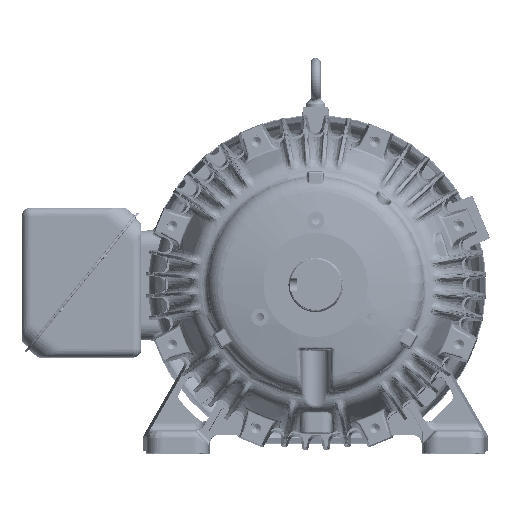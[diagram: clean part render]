
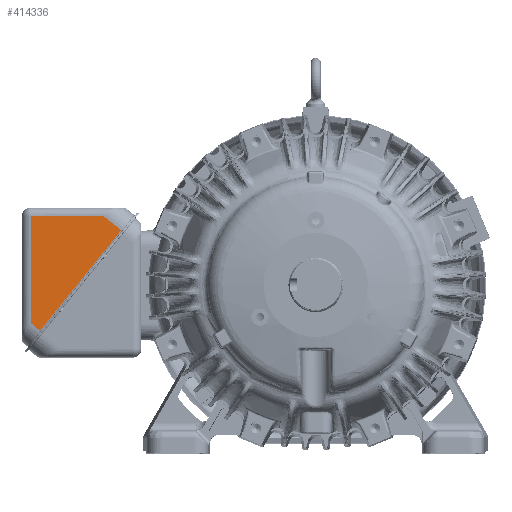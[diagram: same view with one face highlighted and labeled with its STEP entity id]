
A CAD part, top view. The second image highlights one B-rep face of the part: STEP entity #414336.
In plain terms, the highlighted planar face has unit normal (0, 0, 1) as drawn and (1, 0, 0) by its records, which use the part's own axes.
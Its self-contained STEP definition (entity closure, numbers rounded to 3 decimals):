
#412267=DIRECTION('',(0.,-0.629,-0.777));
#412268=VECTOR('',#412267,1.474);
#412269=CARTESIAN_POINT('',(3.935,1.488,6.477));
#412270=LINE('',#412269,#412268);
#412290=DIRECTION('',(0.,0.777,-0.629));
#412291=VECTOR('',#412290,8.422);
#412292=CARTESIAN_POINT('',(3.935,1.488,6.477));
#412293=LINE('',#412292,#412291);
#412307=DIRECTION('',(0.,0.629,0.777));
#412308=VECTOR('',#412307,0.794);
#412309=CARTESIAN_POINT('',(3.935,7.533,0.56));
#412310=LINE('',#412309,#412308);
#412496=DIRECTION('',(0.,0.,-1.));
#412497=VECTOR('',#412496,4.771);
#412498=CARTESIAN_POINT('',(3.935,0.56,5.331));
#412499=LINE('',#412498,#412497);
#412519=DIRECTION('',(0.,1.,0.));
#412520=VECTOR('',#412519,6.973);
#412521=CARTESIAN_POINT('',(3.935,0.56,0.56));
#412522=LINE('',#412521,#412520);
#412583=CARTESIAN_POINT('',(3.935,0.56,0.56));
#412584=CARTESIAN_POINT('',(3.935,7.533,0.56));
#412585=VERTEX_POINT('',#412583);
#412586=VERTEX_POINT('',#412584);
#412591=CARTESIAN_POINT('',(3.935,0.56,5.331));
#412592=VERTEX_POINT('',#412591);
#412665=CARTESIAN_POINT('',(3.935,8.033,1.177));
#412666=VERTEX_POINT('',#412665);
#412667=CARTESIAN_POINT('',(3.935,1.488,6.477));
#412668=VERTEX_POINT('',#412667);
#414321=CARTESIAN_POINT('',(3.935,0.,0.));
#414322=DIRECTION('',(1.,0.,0.));
#414323=DIRECTION('',(0.,0.,-1.));
#414324=AXIS2_PLACEMENT_3D('',#414321,#414322,#414323);
#414325=PLANE('',#414324);
#414326=ORIENTED_EDGE('',*,*,#414312,.T.);
#414328=ORIENTED_EDGE('',*,*,#414327,.F.);
#414330=ORIENTED_EDGE('',*,*,#414329,.F.);
#414332=ORIENTED_EDGE('',*,*,#414331,.F.);
#414333=ORIENTED_EDGE('',*,*,#414284,.F.);
#414334=EDGE_LOOP('',(#414326,#414328,#414330,#414332,#414333));
#414335=FACE_OUTER_BOUND('',#414334,.F.);
#414336=ADVANCED_FACE('',(#414335),#414325,.T.);
#414284=EDGE_CURVE('',#412668,#412592,#412270,.T.);
#414312=EDGE_CURVE('',#412668,#412666,#412293,.T.);
#414327=EDGE_CURVE('',#412586,#412666,#412310,.T.);
#414329=EDGE_CURVE('',#412585,#412586,#412522,.T.);
#414331=EDGE_CURVE('',#412592,#412585,#412499,.T.);
